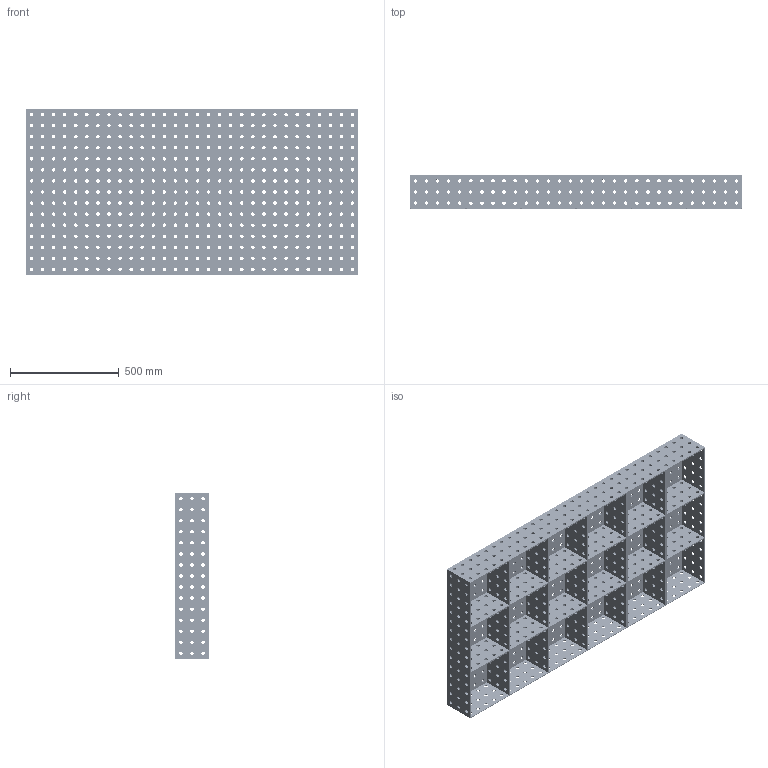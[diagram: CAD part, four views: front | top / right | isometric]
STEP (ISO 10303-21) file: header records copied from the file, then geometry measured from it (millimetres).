
FILE_DESCRIPTION (( 'STEP AP203' ), '1' );
FILE_NAME ('30x60.STEP', '2025-06-10T15:37:47', ( '' ), ( '' ), 'SwSTEP 2.0', 'SolidWorks 2023', '' );
FILE_SCHEMA (( 'CONFIG_CONTROL_DESIGN' ));
Length unit declared in the file: inch
Products named in the file (1): 30x60
Bounding box: 1524 x 152.4 x 762 mm (x, y, z)
Volume: 16372234.6 mm3; surface area: 5513470.1 mm2
Topology: 1 solids, 1 shells, 2346 faces, 6978 edges, 4652 vertices
Faces by surface type: cylinder 2250, plane 96
Entity records: 86041 total; most frequent: DIRECTION 16172, CARTESIAN_POINT 13977, ORIENTED_EDGE 13956, EDGE_CURVE 6978, AXIS2_PLACEMENT_3D 6847, VERTEX_POINT 4652, EDGE_LOOP 4614, CIRCLE 4500
